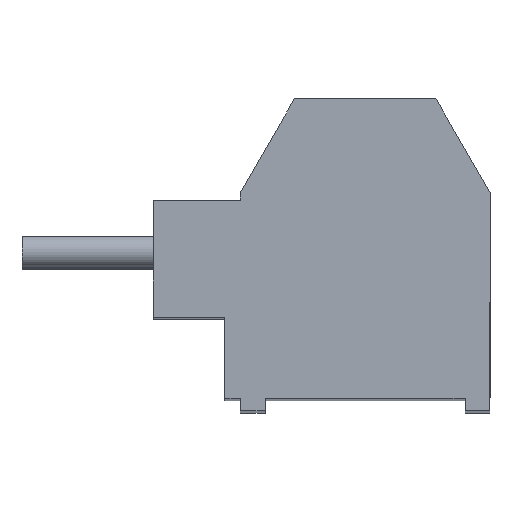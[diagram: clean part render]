
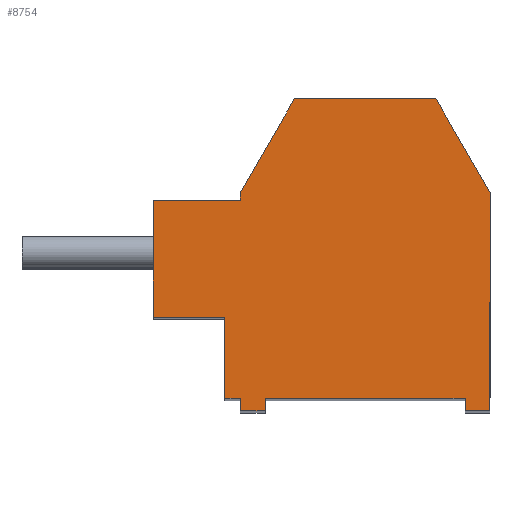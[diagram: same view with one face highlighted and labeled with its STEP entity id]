
A CAD part, top view. The second image highlights one B-rep face of the part: STEP entity #8754.
In plain terms, the highlighted planar face has unit normal (0, 0, 1).
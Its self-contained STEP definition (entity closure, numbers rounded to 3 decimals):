
#4622 = DIRECTION ( 'NONE',  ( 0., -1., 0. ) ) ;
#4623 = VECTOR ( 'NONE', #4622, 1000. ) ;
#4624 = CARTESIAN_POINT ( 'NONE',  ( -2.927, -5.204, 0. ) ) ;
#4625 = LINE ( 'NONE', #4624, #4623 ) ;
#7926 = VERTEX_POINT ( 'NONE', #16706 ) ;
#8021 = VERTEX_POINT ( 'NONE', #16891 ) ;
#8023 = EDGE_CURVE ( 'NONE', #8038, #8021, #16890, .T. ) ;
#8038 = VERTEX_POINT ( 'NONE', #16870 ) ;
#8086 = VERTEX_POINT ( 'NONE', #16934 ) ;
#8088 = EDGE_CURVE ( 'NONE', #8089, #8086, #16933, .T. ) ;
#8089 = VERTEX_POINT ( 'NONE', #16929 ) ;
#8524 = VERTEX_POINT ( 'NONE', #17484 ) ;
#8534 = EDGE_CURVE ( 'NONE', #8535, #7926, #17531, .T. ) ;
#8535 = VERTEX_POINT ( 'NONE', #17527 ) ;
#8586 = EDGE_CURVE ( 'NONE', #8021, #8524, #17568, .T. ) ;
#8600 = EDGE_CURVE ( 'NONE', #8601, #8089, #17546, .T. ) ;
#8601 = VERTEX_POINT ( 'NONE', #17541 ) ;
#8619 = VERTEX_POINT ( 'NONE', #17594 ) ;
#8621 = EDGE_CURVE ( 'NONE', #8637, #8619, #17593, .T. ) ;
#8637 = VERTEX_POINT ( 'NONE', #17636 ) ;
#8639 = EDGE_CURVE ( 'NONE', #8086, #8637, #17635, .T. ) ;
#8651 = EDGE_CURVE ( 'NONE', #8652, #8535, #17616, .T. ) ;
#8652 = VERTEX_POINT ( 'NONE', #17676 ) ;
#8659 = EDGE_CURVE ( 'NONE', #8619, #8684, #17661, .T. ) ;
#8668 = VERTEX_POINT ( 'NONE', #17707 ) ;
#8670 = EDGE_CURVE ( 'NONE', #8684, #8668, #17706, .T. ) ;
#8684 = VERTEX_POINT ( 'NONE', #17687 ) ;
#8712 = EDGE_CURVE ( 'NONE', #8524, #8601, #17772, .T. ) ;
#8721 = VERTEX_POINT ( 'NONE', #17753 ) ;
#8723 = EDGE_CURVE ( 'NONE', #8668, #8721, #17752, .T. ) ;
#8724 = ORIENTED_EDGE ( 'NONE', *, *, #8088, .T. ) ;
#8725 = ORIENTED_EDGE ( 'NONE', *, *, #8639, .T. ) ;
#8726 = ORIENTED_EDGE ( 'NONE', *, *, #8621, .T. ) ;
#8727 = ORIENTED_EDGE ( 'NONE', *, *, #8659, .T. ) ;
#8728 = ORIENTED_EDGE ( 'NONE', *, *, #8670, .T. ) ;
#8729 = ORIENTED_EDGE ( 'NONE', *, *, #8723, .T. ) ;
#8734 = ORIENTED_EDGE ( 'NONE', *, *, #8735, .T. ) ;
#8735 = EDGE_CURVE ( 'NONE', #8758, #8736, #17807, .T. ) ;
#8736 = VERTEX_POINT ( 'NONE', #17803 ) ;
#8737 = ORIENTED_EDGE ( 'NONE', *, *, #8738, .T. ) ;
#8738 = EDGE_CURVE ( 'NONE', #8736, #8652, #17802, .T. ) ;
#8739 = ORIENTED_EDGE ( 'NONE', *, *, #8651, .T. ) ;
#8740 = ORIENTED_EDGE ( 'NONE', *, *, #8534, .T. ) ;
#8741 = ORIENTED_EDGE ( 'NONE', *, *, #12221, .T. ) ;
#8742 = ORIENTED_EDGE ( 'NONE', *, *, #8023, .T. ) ;
#8743 = ORIENTED_EDGE ( 'NONE', *, *, #8586, .T. ) ;
#8754 = ADVANCED_FACE ( 'NONE', ( #17776 ), #17839, .T. ) ;
#8755 = EDGE_LOOP ( 'NONE', ( #8756, #8734, #8737, #8739, #8740, #8741, #8742, #8743, #8803, #8804, #8724, #8725, #8726, #8727, #8728, #8729 ) ) ;
#8756 = ORIENTED_EDGE ( 'NONE', *, *, #8757, .T. ) ;
#8757 = EDGE_CURVE ( 'NONE', #8721, #8758, #17834, .T. ) ;
#8758 = VERTEX_POINT ( 'NONE', #17830 ) ;
#8803 = ORIENTED_EDGE ( 'NONE', *, *, #8712, .T. ) ;
#8804 = ORIENTED_EDGE ( 'NONE', *, *, #8600, .T. ) ;
#12221 = EDGE_CURVE ( 'NONE', #7926, #8038, #4625, .T. ) ;
#16706 = CARTESIAN_POINT ( 'NONE',  ( -2.927, -5.004, 0. ) ) ;
#16870 = CARTESIAN_POINT ( 'NONE',  ( -2.927, -5.404, 0. ) ) ;
#16887 = DIRECTION ( 'NONE',  ( 1., 0., 0. ) ) ;
#16888 = VECTOR ( 'NONE', #16887, 1000. ) ;
#16889 = CARTESIAN_POINT ( 'NONE',  ( -2.527, -5.404, 0. ) ) ;
#16890 = LINE ( 'NONE', #16889, #16888 ) ;
#16891 = CARTESIAN_POINT ( 'NONE',  ( -2.127, -5.404, 0. ) ) ;
#16929 = CARTESIAN_POINT ( 'NONE',  ( 4.273, -5.404, 0. ) ) ;
#16930 = DIRECTION ( 'NONE',  ( 1., 0., 0. ) ) ;
#16931 = VECTOR ( 'NONE', #16930, 1000. ) ;
#16932 = CARTESIAN_POINT ( 'NONE',  ( 4.673, -5.404, 0. ) ) ;
#16933 = LINE ( 'NONE', #16932, #16931 ) ;
#16934 = CARTESIAN_POINT ( 'NONE',  ( 5.073, -5.404, 0. ) ) ;
#17484 = CARTESIAN_POINT ( 'NONE',  ( -2.127, -5.004, 0. ) ) ;
#17527 = CARTESIAN_POINT ( 'NONE',  ( -3.427, -5.004, 0. ) ) ;
#17528 = DIRECTION ( 'NONE',  ( 1., 0., 0. ) ) ;
#17529 = VECTOR ( 'NONE', #17528, 1000. ) ;
#17530 = CARTESIAN_POINT ( 'NONE',  ( -3.177, -5.004, 0. ) ) ;
#17531 = LINE ( 'NONE', #17530, #17529 ) ;
#17541 = CARTESIAN_POINT ( 'NONE',  ( 4.273, -5.004, 0. ) ) ;
#17543 = DIRECTION ( 'NONE',  ( 0., -1., 0. ) ) ;
#17544 = VECTOR ( 'NONE', #17543, 1000. ) ;
#17545 = CARTESIAN_POINT ( 'NONE',  ( 4.273, -5.204, 0. ) ) ;
#17546 = LINE ( 'NONE', #17545, #17544 ) ;
#17565 = DIRECTION ( 'NONE',  ( 0., 1., 0. ) ) ;
#17566 = VECTOR ( 'NONE', #17565, 1000. ) ;
#17567 = CARTESIAN_POINT ( 'NONE',  ( -2.127, -5.204, 0. ) ) ;
#17568 = LINE ( 'NONE', #17567, #17566 ) ;
#17590 = DIRECTION ( 'NONE',  ( -0.5, 0.866, 0. ) ) ;
#17591 = VECTOR ( 'NONE', #17590, 1000. ) ;
#17592 = CARTESIAN_POINT ( 'NONE',  ( 5.073, 1.596, 0. ) ) ;
#17593 = LINE ( 'NONE', #17592, #17591 ) ;
#17594 = CARTESIAN_POINT ( 'NONE',  ( 3.341, 4.596, 0. ) ) ;
#17614 = VECTOR ( 'NONE', #17677, 1000. ) ;
#17615 = CARTESIAN_POINT ( 'NONE',  ( -3.427, -0.404, 0. ) ) ;
#17616 = LINE ( 'NONE', #17615, #17614 ) ;
#17632 = DIRECTION ( 'NONE',  ( 0., 1., 0. ) ) ;
#17633 = VECTOR ( 'NONE', #17632, 1000. ) ;
#17634 = CARTESIAN_POINT ( 'NONE',  ( 5.073, -0.404, 0. ) ) ;
#17635 = LINE ( 'NONE', #17634, #17633 ) ;
#17636 = CARTESIAN_POINT ( 'NONE',  ( 5.073, 1.596, 0. ) ) ;
#17658 = DIRECTION ( 'NONE',  ( -1., 0., 0. ) ) ;
#17659 = VECTOR ( 'NONE', #17658, 1000. ) ;
#17660 = CARTESIAN_POINT ( 'NONE',  ( -0.327, 4.596, 0. ) ) ;
#17661 = LINE ( 'NONE', #17660, #17659 ) ;
#17676 = CARTESIAN_POINT ( 'NONE',  ( -3.427, -2.404, 0. ) ) ;
#17677 = DIRECTION ( 'NONE',  ( 0., -1., 0. ) ) ;
#17687 = CARTESIAN_POINT ( 'NONE',  ( -1.195, 4.596, 0. ) ) ;
#17703 = DIRECTION ( 'NONE',  ( -0.5, -0.866, 0. ) ) ;
#17704 = VECTOR ( 'NONE', #17703, 1000. ) ;
#17705 = CARTESIAN_POINT ( 'NONE',  ( -1.195, 4.596, 0. ) ) ;
#17706 = LINE ( 'NONE', #17705, #17704 ) ;
#17707 = CARTESIAN_POINT ( 'NONE',  ( -2.927, 1.596, 0. ) ) ;
#17749 = DIRECTION ( 'NONE',  ( 0., -1., 0. ) ) ;
#17750 = VECTOR ( 'NONE', #17749, 1000. ) ;
#17751 = CARTESIAN_POINT ( 'NONE',  ( -2.927, -0.404, 0. ) ) ;
#17752 = LINE ( 'NONE', #17751, #17750 ) ;
#17753 = CARTESIAN_POINT ( 'NONE',  ( -2.927, 1.346, 0. ) ) ;
#17769 = DIRECTION ( 'NONE',  ( 1., 0., 0. ) ) ;
#17770 = VECTOR ( 'NONE', #17769, 1000. ) ;
#17771 = CARTESIAN_POINT ( 'NONE',  ( -0.327, -5.004, 0. ) ) ;
#17772 = LINE ( 'NONE', #17771, #17770 ) ;
#17776 = FACE_OUTER_BOUND ( 'NONE', #8755, .T. ) ;
#17799 = DIRECTION ( 'NONE',  ( 1., 0., 0. ) ) ;
#17800 = VECTOR ( 'NONE', #17799, 1000. ) ;
#17801 = CARTESIAN_POINT ( 'NONE',  ( -4.577, -2.404, 0. ) ) ;
#17802 = LINE ( 'NONE', #17801, #17800 ) ;
#17803 = CARTESIAN_POINT ( 'NONE',  ( -5.727, -2.404, 0. ) ) ;
#17804 = DIRECTION ( 'NONE',  ( 0., -1., 0. ) ) ;
#17805 = VECTOR ( 'NONE', #17804, 1000. ) ;
#17806 = CARTESIAN_POINT ( 'NONE',  ( -5.727, -0.529, 0. ) ) ;
#17807 = LINE ( 'NONE', #17806, #17805 ) ;
#17830 = CARTESIAN_POINT ( 'NONE',  ( -5.727, 1.346, 0. ) ) ;
#17831 = DIRECTION ( 'NONE',  ( -1., 0., 0. ) ) ;
#17832 = VECTOR ( 'NONE', #17831, 1000. ) ;
#17833 = CARTESIAN_POINT ( 'NONE',  ( -4.327, 1.346, 0. ) ) ;
#17834 = LINE ( 'NONE', #17833, #17832 ) ;
#17835 = DIRECTION ( 'NONE',  ( 1., 0., 0. ) ) ;
#17836 = DIRECTION ( 'NONE',  ( 0., 0., 1. ) ) ;
#17837 = CARTESIAN_POINT ( 'NONE',  ( -5.727, -5.404, 0. ) ) ;
#17838 = AXIS2_PLACEMENT_3D ( 'NONE', #17837, #17836, #17835 ) ;
#17839 = PLANE ( 'NONE',  #17838 ) ;
